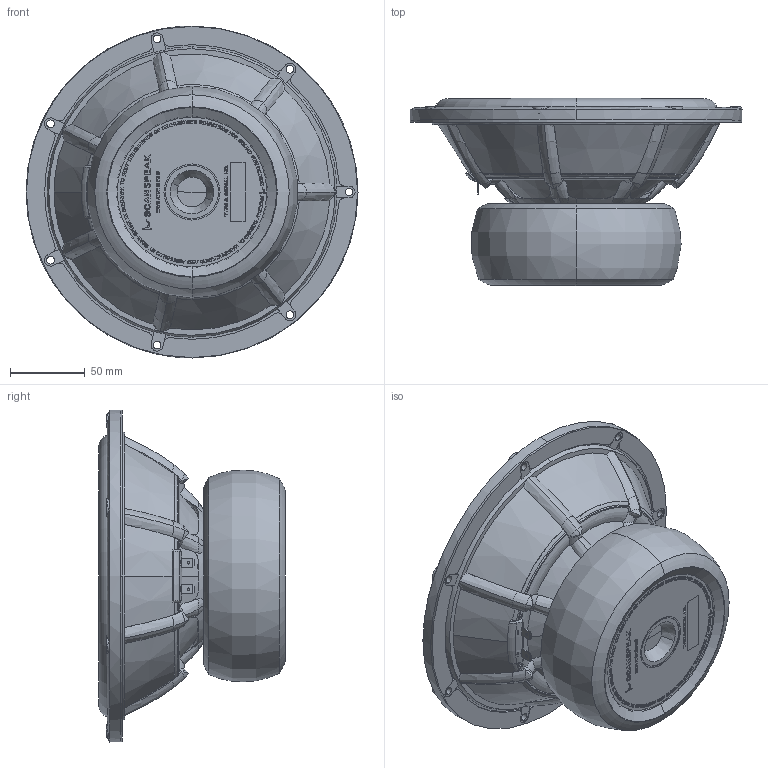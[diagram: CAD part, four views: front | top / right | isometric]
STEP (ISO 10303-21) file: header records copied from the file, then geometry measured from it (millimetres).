
FILE_DESCRIPTION (( 'STEP AP214' ), '1' );
FILE_NAME ('22W-8857T00.STEP', '2020-11-25T11:38:54', ( '' ), ( '' ), 'SwSTEP 2.0', 'SolidWorks 2019', '' );
FILE_SCHEMA (( 'AUTOMOTIVE_DESIGN' ));
Length unit declared in the file: millimetre
Products named in the file (1): 22W-8857T00
Bounding box: 222 x 124.84 x 222 mm (x, y, z)
Volume: 1758286.4 mm3; surface area: 235398.8 mm2
Topology: 2 solids, 9 shells, 3148 faces, 8507 edges, 5575 vertices
Faces by surface type: plane 1913, bspline 848, cylinder 180, torus 120, cone 85, sphere 2
Entity records: 170584 total; most frequent: CARTESIAN_POINT 64159, ORIENTED_EDGE 16954, DIRECTION 11455, EDGE_CURVE 8477, LINE 5671, VECTOR 5671, VERTEX_POINT 5575, EDGE_LOOP 3406
